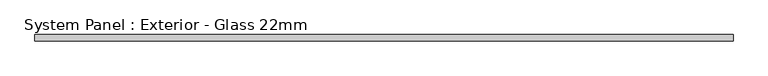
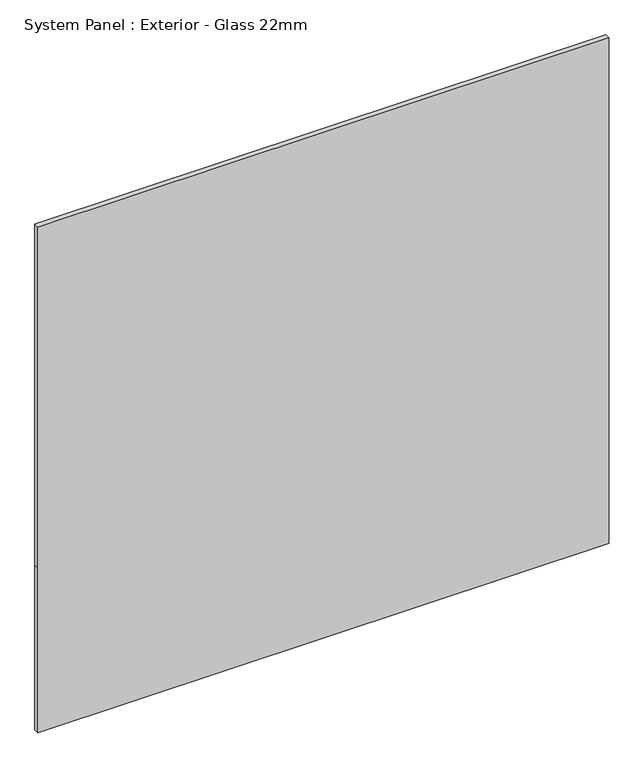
"""IFC4 building model written with IfcOpenShell, lengths in millimetres: plate geometry, System Panel : Exterior - Glass 22mm."""

from ifc_helpers import new_model, si_unit, frame, origin, place, context, project, spatial, polyline, outline, extrude, source, transform, mapped, element, save


def system_panel_exterior_glass_22mm_707c5fed(model_context):
    return source(origin(), model_context, "Body", "SweptSolid", [
        extrude(outline(polyline([(0.0, -1228.75), (0.0, 1228.75), (750.0, 1228.75), (2300.0, 1228.75), (2300.0, -1228.75), (750.0, -1228.75), (0.0, -1228.75)])), frame((0.0, -50.0, 0.0), z_axis=(0.0, 1.0, 0.0), x_axis=(0.0, 0.0, 1.0)), (0.0, 0.0, 1.0), 22.0),
    ])


if __name__ == "__main__":
    model = new_model("IFC4")
    model_context = context("Model", 3, world=origin())
    ifc_project = project(units=[si_unit("LENGTHUNIT", "METRE", prefix="MILLI")], contexts=[model_context])
    site = spatial("IfcSite", under=ifc_project)
    building = spatial("IfcBuilding", under=site)
    placement = place(None, origin())
    system_panel_exterior_glass_22mm_shape = system_panel_exterior_glass_22mm_707c5fed(model_context)
    element("IfcPlate", 1, ObjectType="System Panel : Exterior - Glass 22mm", at=placement, inside=building, context=model_context, shape_type="MappedRepresentation", body=[
        mapped(system_panel_exterior_glass_22mm_shape, transform((0.0, 0.0, 0.0), x_axis=(1.0, 0.0, 0.0), y_axis=(0.0, 1.0, 0.0), z_axis=(0.0, 0.0, 1.0))),
    ])
    save(model, "model.ifc")
